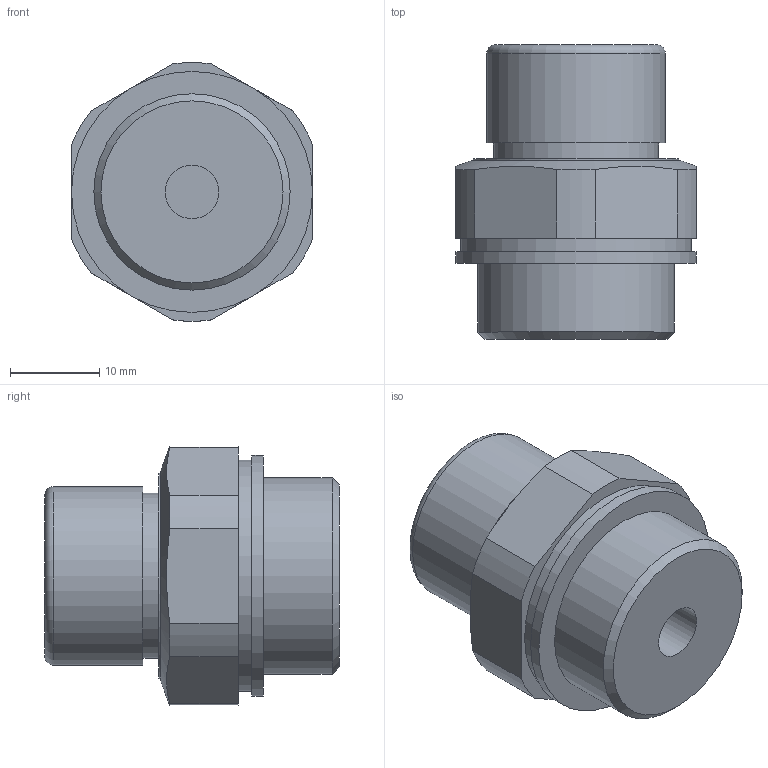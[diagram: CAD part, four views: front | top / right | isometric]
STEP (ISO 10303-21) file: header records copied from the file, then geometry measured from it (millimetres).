
FILE_DESCRIPTION( ( 'STEP AP203' ), '1' );
FILE_NAME( 'C:/Temp/Ganter_Step_05_03_2020/data/3_5/gn882/Breather filters GN 882-M22x1,5-MS-M.stp', '2020-03-12T13:42:41', ( 'License CC BY-ND 4.0' ), ( 'CADENAS' ), ' ', 'PARTsolutions', ' ' );
FILE_SCHEMA( ( 'CONFIG_CONTROL_DESIGN' ) );
Length unit declared in the file: millimetre
Products named in the file (1): _Breather filters GN 882-M22x1,5-MS-M
Bounding box: 27 x 33 x 28.98 mm (x, y, z)
Volume: 13616.9 mm3; surface area: 4013.4 mm2
Topology: 1 solids, 1 shells, 33 faces, 67 edges, 44 vertices
Faces by surface type: plane 16, cylinder 14, cone 2, torus 1
Full cylindrical faces by diameter (mm): 6 x1, 18.5 x1, 19 x1, 20 x1, 22 x1, 23 x1, 25.9 x1, 27 x1
Entity records: 870 total; most frequent: CARTESIAN_POINT 158, DIRECTION 148, ORIENTED_EDGE 110, AXIS2_PLACEMENT_3D 65, EDGE_CURVE 55, EDGE_LOOP 52, VERTEX_POINT 43, FACE_OUTER_BOUND 42
